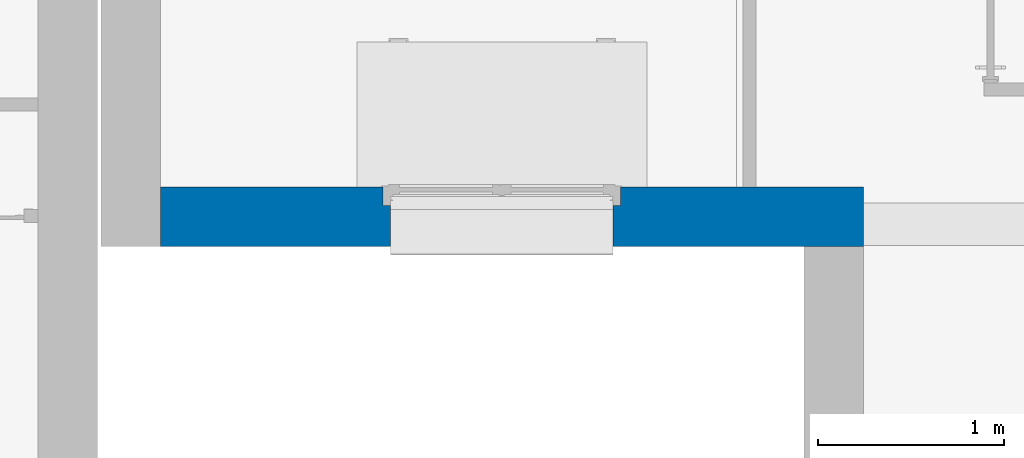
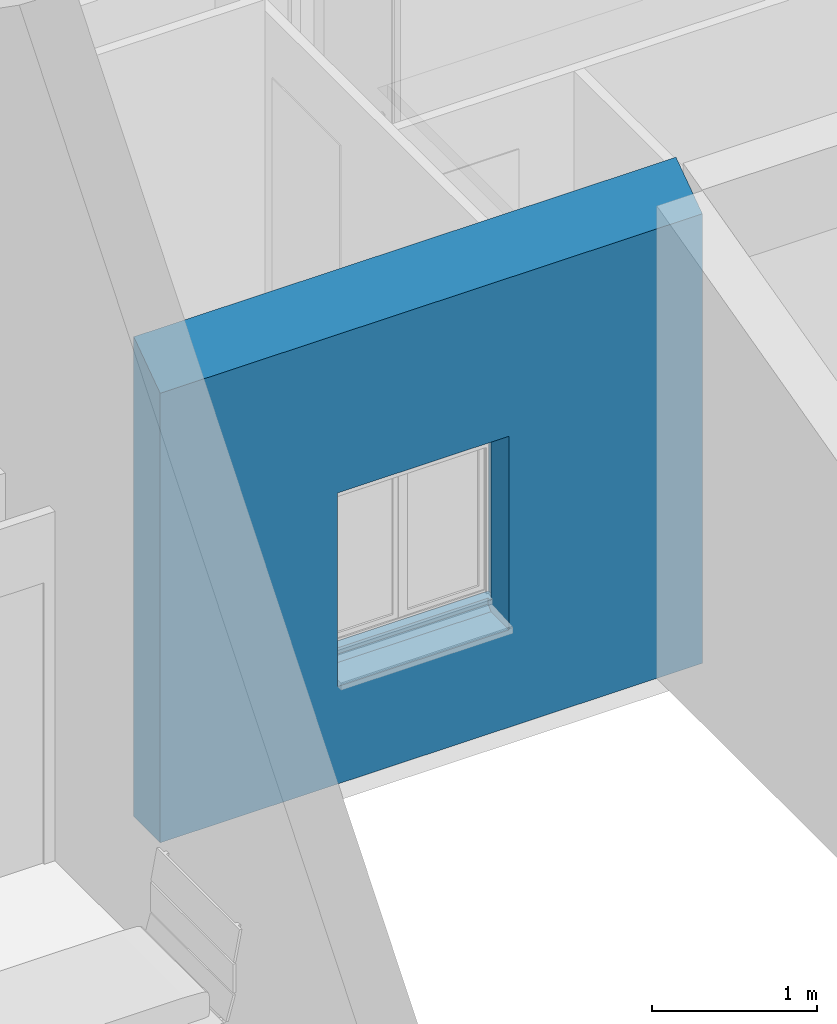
# One storey, part 24 of 50: 1 wall, 1 opening.
"""IFC2X3 building model written with IfcOpenShell, lengths in metres."""

from ifc_helpers import new_model, entity, si_unit, converted_unit, derived_unit, direction, frame, frame_2d, origin, place, context, subcontext, project, spatial, polyline, rectangle, extrude, clip, bounded_halfspace, faceted_brep, material, layer, layer_set, layer_usage, type_object, element, save


model = new_model("IFC2X3")

# Units and contexts
model_context = context("Model", 3, precision=1e-05, world=origin(), true_north=direction((6.12303176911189e-17, 1.0)))
context_of_model = context(None, 3, precision=1e-05, world=origin(), true_north=direction((6.12303176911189e-17, 1.0)))
body_context = subcontext(model_context, "Body", "Model", "MODEL_VIEW")
ifc_project = project(units=[si_unit("LENGTHUNIT", "METRE"), si_unit("AREAUNIT", "SQUARE_METRE"), si_unit("VOLUMEUNIT", "CUBIC_METRE"), converted_unit("PLANEANGLEUNIT", "DEGREE", entity("IfcRatioMeasure", 0.0174532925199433), si_unit("PLANEANGLEUNIT", "RADIAN"), dimensions=[0, 0, 0, 0, 0, 0, 0]), si_unit("MASSUNIT", "GRAM", prefix="KILO"), si_unit("TIMEUNIT", "SECOND"), si_unit("FREQUENCYUNIT", "HERTZ"), si_unit("THERMODYNAMICTEMPERATUREUNIT", "DEGREE_CELSIUS"), derived_unit("THERMALTRANSMITTANCEUNIT", [(si_unit("MASSUNIT", "GRAM", prefix="KILO"), 1), (si_unit("THERMODYNAMICTEMPERATUREUNIT", "KELVIN"), -1), (si_unit("TIMEUNIT", "SECOND"), -3)]), derived_unit("VOLUMETRICFLOWRATEUNIT", [(si_unit("LENGTHUNIT", "METRE"), 3), (si_unit("TIMEUNIT", "SECOND"), -1)]), si_unit("ELECTRICCURRENTUNIT", "AMPERE"), si_unit("ELECTRICVOLTAGEUNIT", "VOLT"), si_unit("POWERUNIT", "WATT"), si_unit("FORCEUNIT", "NEWTON", prefix="KILO"), si_unit("ILLUMINANCEUNIT", "LUX"), si_unit("LUMINOUSFLUXUNIT", "LUMEN"), si_unit("LUMINOUSINTENSITYUNIT", "CANDELA"), si_unit("PRESSUREUNIT", "PASCAL")], contexts=[model_context, context_of_model])

# Site, building, storey
site_placement = place(None, origin())
site = spatial("IfcSite", under=ifc_project, at=site_placement, Name="Surface", CompositionType="ELEMENT")
building_placement = place(site_placement, origin())
building = spatial("IfcBuilding", under=site, at=building_placement, CompositionType="ELEMENT")
storey_placement = place(building_placement, frame((0.0, 0.0, 2.82)))
storey = spatial("IfcBuildingStorey", under=building, at=storey_placement, Name="ETAGE", CompositionType="ELEMENT", Elevation=2.82)

# Wall, opening
ifc_material_1 = material(Name="Enduit blanc cassé2")
ifc_layer_1 = layer(ifc_material_1, 0.02)
ifc_material_2 = material(Name="Parpaing")
ifc_layer_2 = layer(ifc_material_2, 0.2)
ifc_material_3 = material(Name="Isolant")
ifc_layer_3 = layer(ifc_material_3, 0.1)
ifc_layer_set = layer_set([ifc_layer_1, ifc_layer_2, ifc_layer_3], Name="Mur de base:Ext. Parpaing 20 + Isolant 10 enduit blanc cassé")
ifc_layer_usage = layer_usage(ifc_layer_set, "AXIS2", "POSITIVE", -0.16)
wall_type = type_object("IfcWallType", Name="Mur de base:Ext. Parpaing 20 + Isolant 10 enduit blanc cassé", PredefinedType="STANDARD", material=ifc_layer_set)
wall_placement = place(storey_placement, frame((76.622756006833, 84.0875239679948, 0.0)))
wall = element("IfcWallStandardCase", 1, at=wall_placement, inside=storey, type_object=wall_type, material=ifc_layer_usage, Name="Mur de base:Ext. Parpaing 20 + Isolant 10 enduit blanc cassé", ObjectType="Mur de base:Ext. Parpaing 20 + Isolant 10 enduit blanc cassé", context=body_context, shape_type="Clipping", body=[
    clip(extrude(rectangle(XDim=3.78826294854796, YDim=0.319999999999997, at=frame_2d((1.89413147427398, 7.49400541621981e-16), x_axis=(-1.0, 0.0))), origin(), (0.0, 0.0, 1.0), 3.5440664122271), bounded_halfspace(frame((0.0, -0.159999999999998, 3.32), z_axis=(0.0, -0.573576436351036, 0.819152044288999), x_axis=(1.0, 0.0, 0.0)), False, frame((0.0, -0.159999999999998, 3.32)), polyline([(0.0, 0.0), (3.78826294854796, 0.0), (3.78826294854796, 0.319999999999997), (0.0, 0.319999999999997), (0.0, 0.0)]))),
])
opening_placement = place(wall_placement, frame((1.18826294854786, -0.5, 0.719999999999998)))
element("IfcOpeningElement", 2, at=opening_placement, cuts=wall, Name="Mur de base:Ext. Parpaing 20 + Isolant 10 enduit blanc cassé", ObjectType="Opening", context=body_context, shape_type="Brep", body=[
    faceted_brep([(1.25, 1.0, 1.43), (1.25, 1.0, 0.0800000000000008), (0.050000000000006, 1.0, 0.0800000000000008), (0.050000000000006, 1.0, 1.43), (1.25000000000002, 0.0, 1.43), (0.0500000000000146, 0.0, 1.43), (0.0500000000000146, 0.0, 0.0800000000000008), (1.25000000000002, 0.0, 0.0800000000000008), (0.050000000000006, 0.673000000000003, 1.43), (1.25, 0.672999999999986, 1.43), (0.050000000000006, 0.673000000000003, 0.0800000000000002), (1.25, 0.672999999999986, 0.0800000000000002), (1.29000000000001, 0.673000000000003, 0.0800000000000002), (1.29000000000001, 0.559999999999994, 0.0800000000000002), (1.25, 0.559999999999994, 0.0800000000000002), (1.25, 0.594999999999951, 0.0800000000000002), (0.050000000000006, 0.594999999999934, 0.0800000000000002), (0.050000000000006, 0.559999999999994, 0.0800000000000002), (0.0100000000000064, 0.559999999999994, 0.0800000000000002), (0.0100000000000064, 0.673000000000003, 0.0800000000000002), (0.0100000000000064, 0.672999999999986, 1.47), (1.29000000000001, 0.672999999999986, 1.47), (0.0100000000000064, 0.559999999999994, 1.47), (0.050000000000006, 0.559999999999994, 1.43), (1.25, 0.559999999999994, 1.43), (1.29000000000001, 0.559999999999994, 1.47), (1.30000000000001, 0.559999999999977, 1.47), (1.30000000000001, 0.559999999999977, 1.65), (0.0, 0.559999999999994, 1.65), (0.0, 0.559999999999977, 1.47), (0.0, 0.692999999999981, 1.65), (0.0, 0.692999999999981, 1.47), (1.30000000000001, 0.692999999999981, 1.65), (1.30000000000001, 0.692999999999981, 1.47), (0.050000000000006, 0.559999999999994, 0.0), (0.050000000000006, 0.594999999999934, 0.0349999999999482), (1.25, 0.594999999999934, 0.0349999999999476), (1.25, 0.559999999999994, 0.0), (0.0500000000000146, 0.294999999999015, 0.0800000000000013), (0.0500000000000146, 0.294999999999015, 0.0), (1.25, 0.294999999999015, 0.0), (1.25, 0.294999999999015, 0.0800000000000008)], [[[0, 1, 2, 3]], [[4, 5, 6, 7]], [[0, 3, 8, 9]], [[3, 2, 10, 8]], [[2, 1, 11, 12, 13, 14, 15, 16, 17, 18, 19, 10]], [[1, 0, 9, 11]], [[10, 19, 20, 21, 12, 11, 9, 8]], [[19, 18, 22, 20]], [[18, 17, 23, 24, 14, 13, 25, 26, 27, 28, 29, 22]], [[12, 21, 25, 13]], [[30, 31, 29, 28]], [[32, 27, 26, 33]], [[30, 28, 27, 32]], [[29, 31, 33, 26, 25, 21, 20, 22]], [[31, 30, 32, 33]], [[34, 35, 36, 37]], [[35, 16, 15, 36]], [[38, 39, 40, 41]], [[39, 34, 37, 40]], [[4, 7, 41, 40, 37, 36, 15, 14, 24]], [[7, 6, 38, 41]], [[6, 5, 23, 17, 16, 35, 34, 39, 38]], [[5, 4, 24, 23]]]),
])

save(model, "model.ifc")
